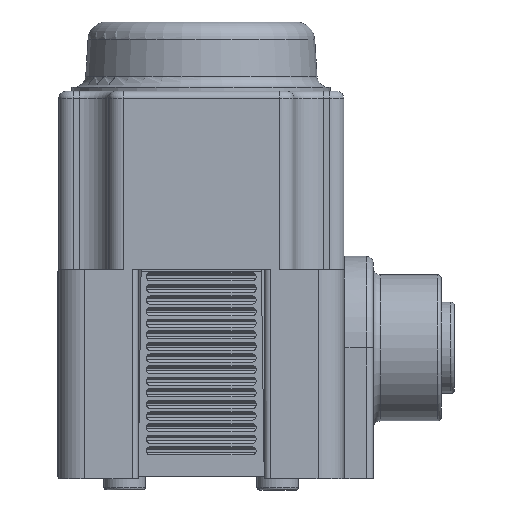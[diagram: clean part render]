
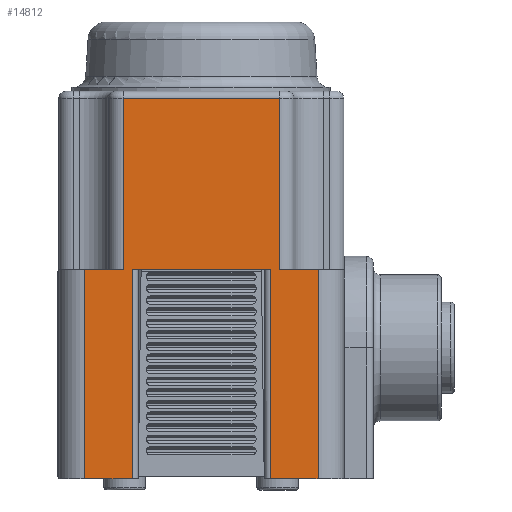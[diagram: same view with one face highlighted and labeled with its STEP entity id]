
A CAD part, left-side view. The second image highlights one B-rep face of the part: STEP entity #14812.
In plain terms, the highlighted planar face has unit normal (-1, 0, 0).
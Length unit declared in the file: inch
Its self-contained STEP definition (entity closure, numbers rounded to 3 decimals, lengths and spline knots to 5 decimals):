
#733=PLANE('',#16370);
#1467=FACE_OUTER_BOUND('',#2349,.T.);
#2349=EDGE_LOOP('',(#11895,#11896,#11897,#11898,#11899,#11900,#11901,#11902,
#11903,#11904,#11905,#11906));
#3962=LINE('',#24914,#4970);
#3975=LINE('',#24984,#4983);
#4091=LINE('',#26535,#5099);
#4108=LINE('',#26594,#5116);
#4109=LINE('',#26598,#5117);
#4112=LINE('',#26617,#5120);
#4126=LINE('',#26694,#5134);
#4127=LINE('',#26698,#5135);
#4128=LINE('',#26699,#5136);
#4129=LINE('',#26701,#5137);
#4130=LINE('',#26703,#5138);
#4131=LINE('',#26704,#5139);
#4970=VECTOR('',#19309,0.3937);
#4983=VECTOR('',#19392,0.3937);
#5099=VECTOR('',#19710,0.3937);
#5116=VECTOR('',#19781,0.3937);
#5117=VECTOR('',#19786,0.3937);
#5120=VECTOR('',#19807,0.3937);
#5134=VECTOR('',#19909,0.3937);
#5135=VECTOR('',#19914,0.3937);
#5136=VECTOR('',#19915,0.3937);
#5137=VECTOR('',#19916,0.3937);
#5138=VECTOR('',#19917,0.3937);
#5139=VECTOR('',#19918,0.3937);
#6293=VERTEX_POINT('',#24906);
#6295=VERTEX_POINT('',#24912);
#6317=VERTEX_POINT('',#24982);
#6447=VERTEX_POINT('',#26532);
#6448=VERTEX_POINT('',#26534);
#6463=VERTEX_POINT('',#26593);
#6464=VERTEX_POINT('',#26597);
#6471=VERTEX_POINT('',#26615);
#6490=VERTEX_POINT('',#26693);
#6491=VERTEX_POINT('',#26697);
#6492=VERTEX_POINT('',#26700);
#6493=VERTEX_POINT('',#26702);
#8074=EDGE_CURVE('',#6295,#6293,#3962,.T.);
#8110=EDGE_CURVE('',#6317,#6295,#3975,.T.);
#8312=EDGE_CURVE('',#6448,#6447,#4091,.T.);
#8341=EDGE_CURVE('',#6463,#6293,#4108,.T.);
#8343=EDGE_CURVE('',#6464,#6463,#4109,.T.);
#8353=EDGE_CURVE('',#6317,#6471,#4112,.T.);
#8392=EDGE_CURVE('',#6490,#6448,#4126,.T.);
#8394=EDGE_CURVE('',#6491,#6471,#4127,.T.);
#8395=EDGE_CURVE('',#6490,#6491,#4128,.T.);
#8396=EDGE_CURVE('',#6492,#6447,#4129,.T.);
#8397=EDGE_CURVE('',#6492,#6493,#4130,.T.);
#8398=EDGE_CURVE('',#6493,#6464,#4131,.T.);
#11895=ORIENTED_EDGE('',*,*,#8074,.F.);
#11896=ORIENTED_EDGE('',*,*,#8110,.F.);
#11897=ORIENTED_EDGE('',*,*,#8353,.T.);
#11898=ORIENTED_EDGE('',*,*,#8394,.F.);
#11899=ORIENTED_EDGE('',*,*,#8395,.F.);
#11900=ORIENTED_EDGE('',*,*,#8392,.T.);
#11901=ORIENTED_EDGE('',*,*,#8312,.T.);
#11902=ORIENTED_EDGE('',*,*,#8396,.F.);
#11903=ORIENTED_EDGE('',*,*,#8397,.T.);
#11904=ORIENTED_EDGE('',*,*,#8398,.T.);
#11905=ORIENTED_EDGE('',*,*,#8343,.T.);
#11906=ORIENTED_EDGE('',*,*,#8341,.T.);
#14812=ADVANCED_FACE('',(#1467),#733,.T.);
#16370=AXIS2_PLACEMENT_3D('',#26696,#19912,#19913);
#19309=DIRECTION('',(0.,-1.,0.));
#19392=DIRECTION('',(0.,0.,1.));
#19710=DIRECTION('',(0.,-1.,0.));
#19781=DIRECTION('',(0.,0.,1.));
#19786=DIRECTION('',(0.,1.,0.));
#19807=DIRECTION('',(0.,1.,0.));
#19909=DIRECTION('',(0.,0.,1.));
#19912=DIRECTION('center_axis',(-1.,0.,0.));
#19913=DIRECTION('ref_axis',(0.,0.,1.));
#19914=DIRECTION('',(0.,0.,1.));
#19915=DIRECTION('',(0.,1.,0.));
#19916=DIRECTION('',(0.,0.,1.));
#19917=DIRECTION('',(0.,-1.,0.));
#19918=DIRECTION('',(0.,0.,1.));
#24906=CARTESIAN_POINT('',(-1.98381,0.37994,0.93404));
#24912=CARTESIAN_POINT('',(-1.98381,1.04794,0.93404));
#24914=CARTESIAN_POINT('',(-1.98381,1.04794,0.93404));
#24982=CARTESIAN_POINT('',(-1.98381,1.04794,0.20204));
#24984=CARTESIAN_POINT('',(-1.98381,1.04794,0.20204));
#26532=CARTESIAN_POINT('',(-1.98381,0.41994,0.20204));
#26534=CARTESIAN_POINT('',(-1.98381,1.00794,0.20204));
#26535=CARTESIAN_POINT('',(-1.98381,1.00794,0.20204));
#26593=CARTESIAN_POINT('',(-1.98381,0.37994,0.20204));
#26594=CARTESIAN_POINT('',(-1.98381,0.37994,0.20204));
#26597=CARTESIAN_POINT('',(-1.98381,0.21494,0.20204));
#26598=CARTESIAN_POINT('',(-1.98381,0.21494,0.20204));
#26615=CARTESIAN_POINT('',(-1.98381,1.21294,0.20204));
#26617=CARTESIAN_POINT('',(-1.98381,1.04794,0.20204));
#26693=CARTESIAN_POINT('',(-1.98381,1.00794,-0.69196));
#26694=CARTESIAN_POINT('',(-1.98381,1.00794,-0.69196));
#26696=CARTESIAN_POINT('Origin',(-1.98381,0.21455,0.12104));
#26697=CARTESIAN_POINT('',(-1.98381,1.21294,-0.69196));
#26698=CARTESIAN_POINT('',(-1.98381,1.21294,-0.69196));
#26699=CARTESIAN_POINT('',(-1.98381,1.00794,-0.69196));
#26700=CARTESIAN_POINT('',(-1.98381,0.41994,-0.69196));
#26701=CARTESIAN_POINT('',(-1.98381,0.41994,-0.69196));
#26702=CARTESIAN_POINT('',(-1.98381,0.21494,-0.69196));
#26703=CARTESIAN_POINT('',(-1.98381,0.41994,-0.69196));
#26704=CARTESIAN_POINT('',(-1.98381,0.21494,-0.69196));
